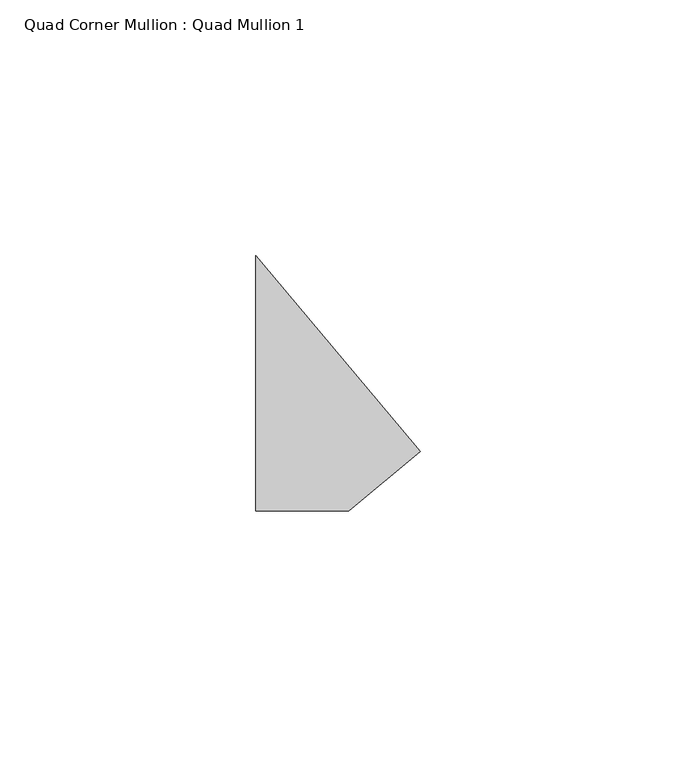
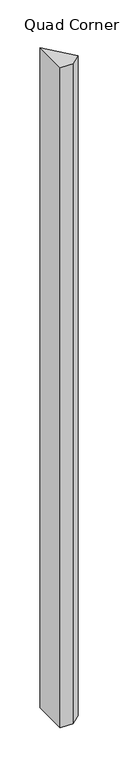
"""IFC4 building model written with IfcOpenShell, lengths in millimetres: member geometry, Quad Corner Mullion : Quad Mullion 1."""

from ifc_helpers import new_model, si_unit, frame, origin, place, context, project, spatial, polyline, outline, extrude, source, transform, mapped, element, save


def quad_corner_mullion_quad_mullion_1_ba15e875(model_context):
    return source(origin(), model_context, "Body", "SweptSolid", [
        extrude(outline(polyline([(23.0401246, -13.3022222), (9.0992559, -25.0), (-9.0992559, -25.0), (-9.0992559, 25.0), (23.0401246, -13.3022222)])), frame((0.0, 0.0, -1000.0), z_axis=(0.0, 0.0, 1.0), x_axis=(1.0, 0.0, 0.0)), (0.0, 0.0, 1.0), 1000.0),
    ])


if __name__ == "__main__":
    model = new_model("IFC4")
    model_context = context("Model", 3, world=origin())
    ifc_project = project(units=[si_unit("LENGTHUNIT", "METRE", prefix="MILLI")], contexts=[model_context])
    site = spatial("IfcSite", under=ifc_project)
    building = spatial("IfcBuilding", under=site)
    placement = place(None, origin())
    quad_corner_mullion_quad_mullion_1_shape = quad_corner_mullion_quad_mullion_1_ba15e875(model_context)
    element("IfcMember", 1, ObjectType="Quad Corner Mullion : Quad Mullion 1", at=placement, inside=building, context=model_context, shape_type="MappedRepresentation", body=[
        mapped(quad_corner_mullion_quad_mullion_1_shape, transform((0.0, 0.0, 0.0), x_axis=(1.0, 0.0, 0.0), y_axis=(0.0, 1.0, 0.0), z_axis=(0.0, 0.0, 1.0))),
    ])
    save(model, "model.ifc")
